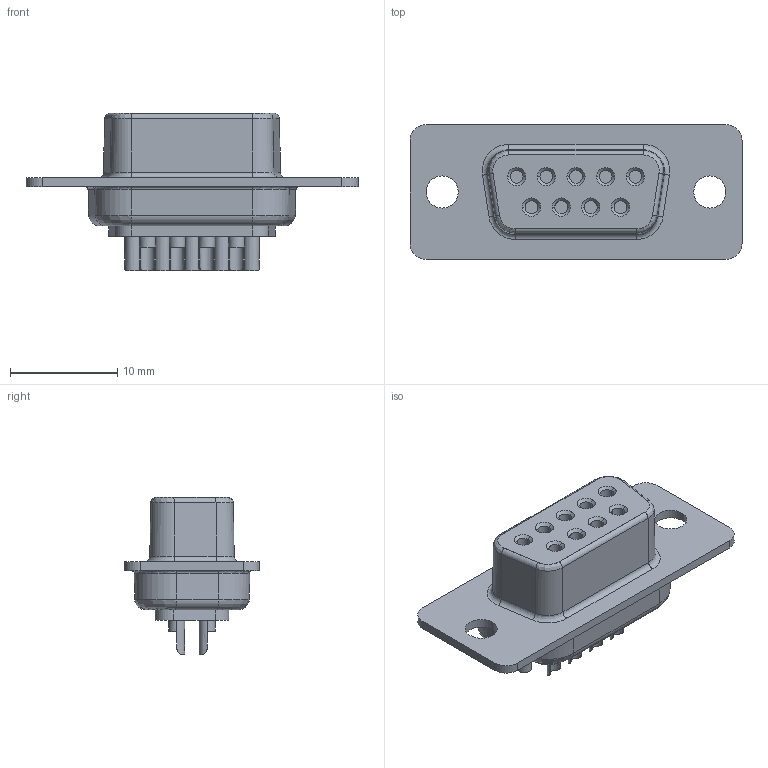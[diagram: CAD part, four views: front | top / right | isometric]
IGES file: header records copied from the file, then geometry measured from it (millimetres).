
Start section: START RECORD GO HERE.
Global section: file name: SUB-D-9_weiblich.igs; native system: IBM CATIA IGES - CATIA Version 5 Release 19 ; preprocessor: CATIA Version 5 Release 19 ; author: Administrator; organization: M0000815; date: 20231120.220206; units: millimetre
Bounding box: 31 x 12.6 x 14.7 mm (x, y, z)
Surface area: 1847.8 mm2 (no closed solid volume)
Topology: 0 solids, 0 shells, 243 faces, 1132 edges, 1132 vertices
Faces by surface type: revolution 164, plane 79
